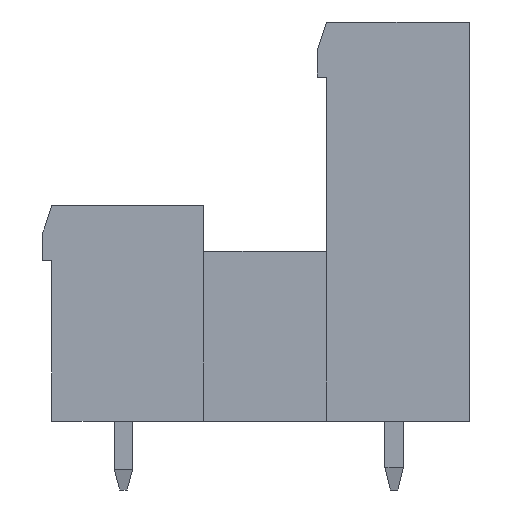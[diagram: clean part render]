
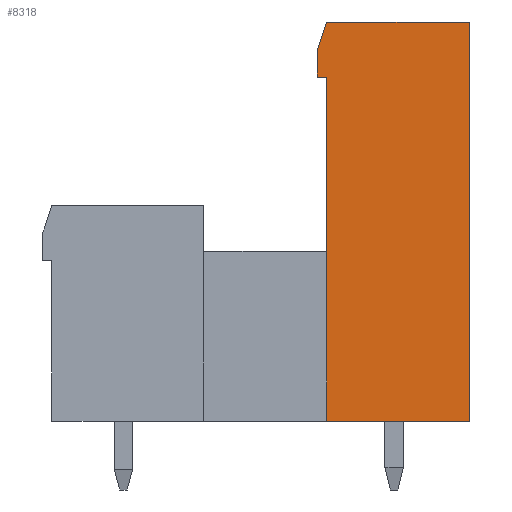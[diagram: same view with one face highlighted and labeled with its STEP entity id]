
A CAD part, left-side view. The second image highlights one B-rep face of the part: STEP entity #8318.
In plain terms, the highlighted planar face has unit normal (-1, 0, 0).
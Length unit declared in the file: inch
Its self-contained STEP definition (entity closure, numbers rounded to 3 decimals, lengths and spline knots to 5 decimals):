
#1=DIRECTION('',(0.,0.,1.));
#2=VECTOR('',#1,0.37);
#3=CARTESIAN_POINT('',(-0.6395,0.311,0.));
#4=LINE('',#3,#2);
#5=DIRECTION('',(0.,0.,1.));
#6=VECTOR('',#5,0.38);
#7=CARTESIAN_POINT('',(-0.6395,0.311,0.37));
#8=LINE('',#7,#6);
#9=DIRECTION('',(0.,1.,0.));
#10=VECTOR('',#9,0.02);
#11=CARTESIAN_POINT('',(-0.6395,0.311,0.75));
#12=LINE('',#11,#10);
#13=DIRECTION('',(0.,0.,1.));
#14=VECTOR('',#13,0.06);
#15=CARTESIAN_POINT('',(-0.6395,0.331,0.75));
#16=LINE('',#15,#14);
#17=DIRECTION('',(0.,-0.316,0.949));
#18=VECTOR('',#17,0.06325);
#19=CARTESIAN_POINT('',(-0.6395,0.331,0.81));
#20=LINE('',#19,#18);
#21=DIRECTION('',(0.,-1.,0.));
#22=VECTOR('',#21,0.311);
#23=CARTESIAN_POINT('',(-0.6395,0.311,0.87));
#24=LINE('',#23,#22);
#25=DIRECTION('',(0.,0.,-1.));
#26=VECTOR('',#25,0.87);
#27=CARTESIAN_POINT('',(-0.6395,0.,0.87));
#28=LINE('',#27,#26);
#29=DIRECTION('',(0.,1.,0.));
#30=VECTOR('',#29,0.311);
#31=CARTESIAN_POINT('',(-0.6395,0.,0.));
#32=LINE('',#31,#30);
#6377=CARTESIAN_POINT('',(-0.6395,0.,0.87));
#6378=CARTESIAN_POINT('',(-0.6395,0.,0.));
#6379=VERTEX_POINT('',#6377);
#6380=VERTEX_POINT('',#6378);
#6381=CARTESIAN_POINT('',(-0.6395,0.311,0.75));
#6382=CARTESIAN_POINT('',(-0.6395,0.331,0.75));
#6383=VERTEX_POINT('',#6381);
#6384=VERTEX_POINT('',#6382);
#6385=CARTESIAN_POINT('',(-0.6395,0.331,0.81));
#6386=VERTEX_POINT('',#6385);
#6387=CARTESIAN_POINT('',(-0.6395,0.311,0.87));
#6388=VERTEX_POINT('',#6387);
#6472=CARTESIAN_POINT('',(-0.6395,0.311,0.));
#6473=CARTESIAN_POINT('',(-0.6395,0.311,0.37));
#6474=VERTEX_POINT('',#6472);
#6475=VERTEX_POINT('',#6473);
#8295=CARTESIAN_POINT('',(-0.6395,0.,0.));
#8296=DIRECTION('',(1.,0.,0.));
#8297=DIRECTION('',(0.,0.,-1.));
#8298=AXIS2_PLACEMENT_3D('',#8295,#8296,#8297);
#8299=PLANE('',#8298);
#8301=ORIENTED_EDGE('',*,*,#8300,.T.);
#8303=ORIENTED_EDGE('',*,*,#8302,.T.);
#8305=ORIENTED_EDGE('',*,*,#8304,.T.);
#8307=ORIENTED_EDGE('',*,*,#8306,.T.);
#8309=ORIENTED_EDGE('',*,*,#8308,.T.);
#8311=ORIENTED_EDGE('',*,*,#8310,.T.);
#8313=ORIENTED_EDGE('',*,*,#8312,.T.);
#8315=ORIENTED_EDGE('',*,*,#8314,.T.);
#8316=EDGE_LOOP('',(#8301,#8303,#8305,#8307,#8309,#8311,#8313,#8315));
#8317=FACE_OUTER_BOUND('',#8316,.F.);
#8318=ADVANCED_FACE('',(#8317),#8299,.F.);
#8300=EDGE_CURVE('',#6474,#6475,#4,.T.);
#8302=EDGE_CURVE('',#6475,#6383,#8,.T.);
#8304=EDGE_CURVE('',#6383,#6384,#12,.T.);
#8306=EDGE_CURVE('',#6384,#6386,#16,.T.);
#8308=EDGE_CURVE('',#6386,#6388,#20,.T.);
#8310=EDGE_CURVE('',#6388,#6379,#24,.T.);
#8312=EDGE_CURVE('',#6379,#6380,#28,.T.);
#8314=EDGE_CURVE('',#6380,#6474,#32,.T.);
